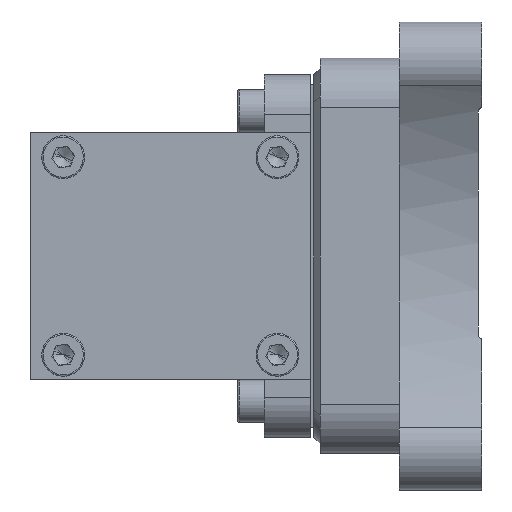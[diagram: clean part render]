
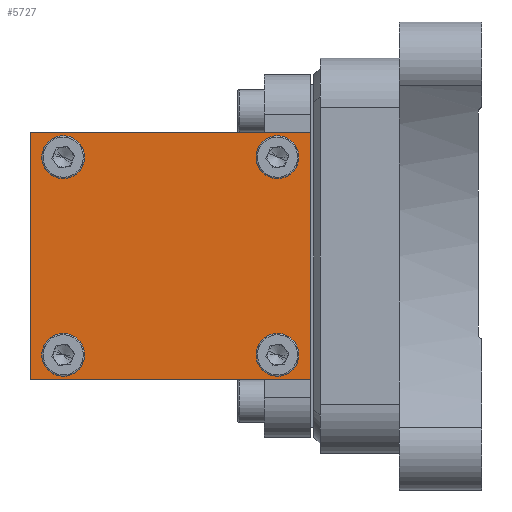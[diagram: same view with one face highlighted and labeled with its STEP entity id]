
A CAD part, left-side view. The second image highlights one B-rep face of the part: STEP entity #5727.
In plain terms, the highlighted planar face has unit normal (-1, 0, 0) as drawn and (1, 0, 0) by its records, which use the part's own axes.
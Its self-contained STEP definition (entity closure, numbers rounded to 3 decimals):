
#34 = AXIS2_PLACEMENT_3D ( 'NONE', #7486, #9878, #5236 ) ;
#188 = CARTESIAN_POINT ( 'NONE',  ( 93., 11., -30. ) ) ;
#262 = ORIENTED_EDGE ( 'NONE', *, *, #7324, .F. ) ;
#365 = EDGE_CURVE ( 'NONE', #9538, #4247, #7381, .T. ) ;
#387 = DIRECTION ( 'NONE',  ( 0., 0., -1. ) ) ;
#391 = DIRECTION ( 'NONE',  ( 0., 1., 0. ) ) ;
#559 = CARTESIAN_POINT ( 'NONE',  ( 93., 11., -30. ) ) ;
#561 = VERTEX_POINT ( 'NONE', #3086 ) ;
#577 = DIRECTION ( 'NONE',  ( 0., 0., -1. ) ) ;
#683 = CARTESIAN_POINT ( 'NONE',  ( 93., 76., -34. ) ) ;
#875 = CARTESIAN_POINT ( 'NONE',  ( 93., 1., 37.5 ) ) ;
#914 = EDGE_LOOP ( 'NONE', ( #262, #7447 ) ) ;
#977 = EDGE_CURVE ( 'NONE', #7532, #7186, #2657, .T. ) ;
#1083 = DIRECTION ( 'NONE',  ( 0., 0., -1. ) ) ;
#1116 = CARTESIAN_POINT ( 'NONE',  ( 93., 76., 30. ) ) ;
#1167 = CARTESIAN_POINT ( 'NONE',  ( 93., 76., -30. ) ) ;
#1235 = CARTESIAN_POINT ( 'NONE',  ( 93., 76., -30. ) ) ;
#1341 = DIRECTION ( 'NONE',  ( 1., 0., 0. ) ) ;
#1354 = AXIS2_PLACEMENT_3D ( 'NONE', #3874, #3205, #5419 ) ;
#1503 = EDGE_LOOP ( 'NONE', ( #7692, #2818, #7041, #7304 ) ) ;
#1781 = VERTEX_POINT ( 'NONE', #9592 ) ;
#1800 = AXIS2_PLACEMENT_3D ( 'NONE', #1116, #9643, #1083 ) ;
#1840 = DIRECTION ( 'NONE',  ( 0., 0., -1. ) ) ;
#1841 = FACE_BOUND ( 'NONE', #7271, .T. ) ;
#1948 = EDGE_CURVE ( 'NONE', #4163, #2100, #8271, .T. ) ;
#1987 = EDGE_CURVE ( 'NONE', #9538, #561, #8153, .T. ) ;
#2029 = CARTESIAN_POINT ( 'NONE',  ( 93., 11., 30. ) ) ;
#2053 = CARTESIAN_POINT ( 'NONE',  ( 93., 1., 37.5 ) ) ;
#2069 = CIRCLE ( 'NONE', #9113, 4. ) ;
#2077 = FACE_BOUND ( 'NONE', #914, .T. ) ;
#2100 = VERTEX_POINT ( 'NONE', #9940 ) ;
#2146 = CARTESIAN_POINT ( 'NONE',  ( 93., 11., 30. ) ) ;
#2210 = DIRECTION ( 'NONE',  ( 1., 0., 0. ) ) ;
#2236 = VECTOR ( 'NONE', #4414, 1000. ) ;
#2286 = VERTEX_POINT ( 'NONE', #683 ) ;
#2424 = AXIS2_PLACEMENT_3D ( 'NONE', #188, #9540, #387 ) ;
#2657 = CIRCLE ( 'NONE', #8540, 4. ) ;
#2818 = ORIENTED_EDGE ( 'NONE', *, *, #3267, .F. ) ;
#3086 = CARTESIAN_POINT ( 'NONE',  ( 93., 86., 37.5 ) ) ;
#3205 = DIRECTION ( 'NONE',  ( -1., 0., 0. ) ) ;
#3267 = EDGE_CURVE ( 'NONE', #561, #4037, #9956, .T. ) ;
#3488 = CIRCLE ( 'NONE', #34, 4. ) ;
#3498 = CARTESIAN_POINT ( 'NONE',  ( 93., 86., -37.5 ) ) ;
#3579 = DIRECTION ( 'NONE',  ( 0., 0., -1. ) ) ;
#3600 = CARTESIAN_POINT ( 'NONE',  ( 93., 76., -26. ) ) ;
#3708 = LINE ( 'NONE', #9875, #8583 ) ;
#3814 = CIRCLE ( 'NONE', #9568, 4. ) ;
#3874 = CARTESIAN_POINT ( 'NONE',  ( 93., 86., 37.5 ) ) ;
#4037 = VERTEX_POINT ( 'NONE', #3498 ) ;
#4154 = EDGE_CURVE ( 'NONE', #4421, #2286, #8720, .T. ) ;
#4163 = VERTEX_POINT ( 'NONE', #9797 ) ;
#4209 = VECTOR ( 'NONE', #1840, 1000. ) ;
#4247 = VERTEX_POINT ( 'NONE', #6479 ) ;
#4414 = DIRECTION ( 'NONE',  ( 0., 0., -1. ) ) ;
#4421 = VERTEX_POINT ( 'NONE', #3600 ) ;
#4496 = DIRECTION ( 'NONE',  ( 0., 0., -1. ) ) ;
#4737 = CARTESIAN_POINT ( 'NONE',  ( 93., 11., -34. ) ) ;
#4878 = CIRCLE ( 'NONE', #2424, 4. ) ;
#5113 = EDGE_CURVE ( 'NONE', #4247, #4037, #3708, .T. ) ;
#5236 = DIRECTION ( 'NONE',  ( 0., 0., -1. ) ) ;
#5388 = EDGE_LOOP ( 'NONE', ( #7825, #9361 ) ) ;
#5419 = DIRECTION ( 'NONE',  ( 0., 0., 1. ) ) ;
#5463 = ORIENTED_EDGE ( 'NONE', *, *, #977, .F. ) ;
#5517 = PLANE ( 'NONE',  #1354 ) ;
#5560 = CIRCLE ( 'NONE', #1800, 4. ) ;
#5727 = ADVANCED_FACE ( 'NONE', ( #1841, #2077, #10046, #9562, #7843 ), #5517, .F. ) ;
#5832 = CARTESIAN_POINT ( 'NONE',  ( 93., 86., 37.5 ) ) ;
#5984 = EDGE_CURVE ( 'NONE', #2286, #4421, #3814, .T. ) ;
#6180 = VECTOR ( 'NONE', #9187, 1000. ) ;
#6479 = CARTESIAN_POINT ( 'NONE',  ( 93., 1., -37.5 ) ) ;
#6695 = DIRECTION ( 'NONE',  ( 1., 0., 0. ) ) ;
#6724 = DIRECTION ( 'NONE',  ( 0., 0., -1. ) ) ;
#7041 = ORIENTED_EDGE ( 'NONE', *, *, #1987, .F. ) ;
#7186 = VERTEX_POINT ( 'NONE', #9018 ) ;
#7271 = EDGE_LOOP ( 'NONE', ( #5463, #8656 ) ) ;
#7302 = VERTEX_POINT ( 'NONE', #9257 ) ;
#7304 = ORIENTED_EDGE ( 'NONE', *, *, #365, .T. ) ;
#7324 = EDGE_CURVE ( 'NONE', #2100, #4163, #2069, .T. ) ;
#7381 = LINE ( 'NONE', #2053, #2236 ) ;
#7447 = ORIENTED_EDGE ( 'NONE', *, *, #1948, .F. ) ;
#7486 = CARTESIAN_POINT ( 'NONE',  ( 93., 76., 30. ) ) ;
#7532 = VERTEX_POINT ( 'NONE', #4737 ) ;
#7610 = CARTESIAN_POINT ( 'NONE',  ( 93., 86., 37.5 ) ) ;
#7652 = EDGE_CURVE ( 'NONE', #7186, #7532, #4878, .T. ) ;
#7692 = ORIENTED_EDGE ( 'NONE', *, *, #5113, .T. ) ;
#7825 = ORIENTED_EDGE ( 'NONE', *, *, #5984, .F. ) ;
#7843 = FACE_OUTER_BOUND ( 'NONE', #1503, .T. ) ;
#7953 = AXIS2_PLACEMENT_3D ( 'NONE', #2029, #1341, #4496 ) ;
#8130 = ORIENTED_EDGE ( 'NONE', *, *, #9190, .F. ) ;
#8153 = LINE ( 'NONE', #7610, #6180 ) ;
#8271 = CIRCLE ( 'NONE', #7953, 4. ) ;
#8540 = AXIS2_PLACEMENT_3D ( 'NONE', #559, #9989, #6724 ) ;
#8583 = VECTOR ( 'NONE', #391, 1000. ) ;
#8656 = ORIENTED_EDGE ( 'NONE', *, *, #7652, .F. ) ;
#8720 = CIRCLE ( 'NONE', #9218, 4. ) ;
#8966 = EDGE_CURVE ( 'NONE', #7302, #1781, #5560, .T. ) ;
#9003 = DIRECTION ( 'NONE',  ( 0., 0., -1. ) ) ;
#9018 = CARTESIAN_POINT ( 'NONE',  ( 93., 11., -26. ) ) ;
#9113 = AXIS2_PLACEMENT_3D ( 'NONE', #2146, #2210, #577 ) ;
#9187 = DIRECTION ( 'NONE',  ( 0., 1., 0. ) ) ;
#9190 = EDGE_CURVE ( 'NONE', #1781, #7302, #3488, .T. ) ;
#9218 = AXIS2_PLACEMENT_3D ( 'NONE', #1167, #6695, #9003 ) ;
#9257 = CARTESIAN_POINT ( 'NONE',  ( 93., 76., 26. ) ) ;
#9361 = ORIENTED_EDGE ( 'NONE', *, *, #4154, .F. ) ;
#9417 = EDGE_LOOP ( 'NONE', ( #9960, #8130 ) ) ;
#9538 = VERTEX_POINT ( 'NONE', #875 ) ;
#9540 = DIRECTION ( 'NONE',  ( 1., 0., 0. ) ) ;
#9562 = FACE_BOUND ( 'NONE', #9417, .T. ) ;
#9568 = AXIS2_PLACEMENT_3D ( 'NONE', #1235, #9831, #3579 ) ;
#9592 = CARTESIAN_POINT ( 'NONE',  ( 93., 76., 34. ) ) ;
#9643 = DIRECTION ( 'NONE',  ( 1., 0., 0. ) ) ;
#9797 = CARTESIAN_POINT ( 'NONE',  ( 93., 11., 34. ) ) ;
#9831 = DIRECTION ( 'NONE',  ( 1., 0., 0. ) ) ;
#9875 = CARTESIAN_POINT ( 'NONE',  ( 93., 86., -37.5 ) ) ;
#9878 = DIRECTION ( 'NONE',  ( 1., 0., 0. ) ) ;
#9940 = CARTESIAN_POINT ( 'NONE',  ( 93., 11., 26. ) ) ;
#9956 = LINE ( 'NONE', #5832, #4209 ) ;
#9960 = ORIENTED_EDGE ( 'NONE', *, *, #8966, .F. ) ;
#9989 = DIRECTION ( 'NONE',  ( 1., 0., 0. ) ) ;
#10046 = FACE_BOUND ( 'NONE', #5388, .T. ) ;
